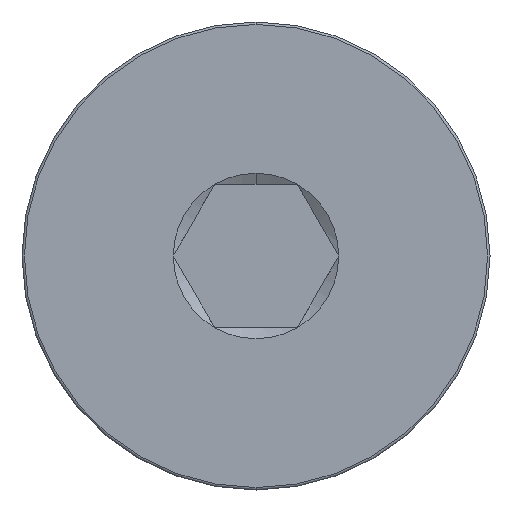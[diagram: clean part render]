
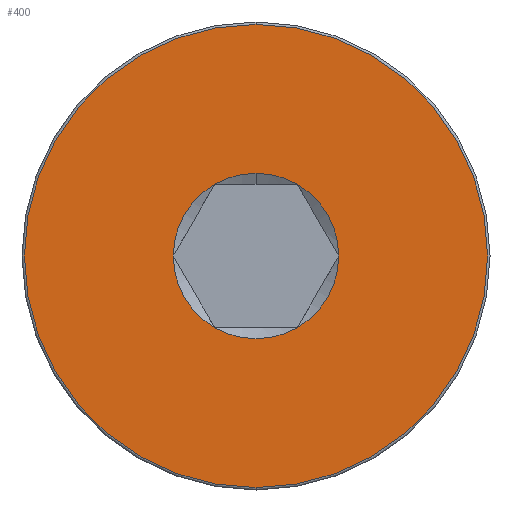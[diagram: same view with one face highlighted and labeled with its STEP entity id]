
A CAD part, left-side view. The second image highlights one B-rep face of the part: STEP entity #400.
In plain terms, the highlighted planar face has unit normal (-1, 0, 0).
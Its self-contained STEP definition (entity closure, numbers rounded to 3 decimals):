
#2 = CARTESIAN_POINT ( 'NONE',  ( 0., 0., 0. ) ) ;
#28 = DIRECTION ( 'NONE',  ( -1., 0., 0. ) ) ;
#31 = CARTESIAN_POINT ( 'NONE',  ( 0., 0.866, 1.5 ) ) ;
#59 = VERTEX_POINT ( 'NONE', #172 ) ;
#65 = EDGE_CURVE ( 'NONE', #428, #702, #761, .T. ) ;
#73 = CARTESIAN_POINT ( 'NONE',  ( 0., 0., 0. ) ) ;
#74 = AXIS2_PLACEMENT_3D ( 'NONE', #701, #657, #339 ) ;
#84 = VERTEX_POINT ( 'NONE', #531 ) ;
#85 = CIRCLE ( 'NONE', #189, 1.732 ) ;
#86 = DIRECTION ( 'NONE',  ( 1., 0., 0. ) ) ;
#90 = ORIENTED_EDGE ( 'NONE', *, *, #237, .T. ) ;
#94 = FACE_OUTER_BOUND ( 'NONE', #509, .T. ) ;
#96 = CIRCLE ( 'NONE', #717, 1.732 ) ;
#99 = CARTESIAN_POINT ( 'NONE',  ( 0., 1.732, 0. ) ) ;
#100 = EDGE_CURVE ( 'NONE', #231, #59, #526, .T. ) ;
#138 = CIRCLE ( 'NONE', #381, 1.732 ) ;
#139 = DIRECTION ( 'NONE',  ( 0., 0., 1. ) ) ;
#143 = DIRECTION ( 'NONE',  ( 0., 0., -1. ) ) ;
#156 = CARTESIAN_POINT ( 'NONE',  ( 0., 0., 0. ) ) ;
#169 = ORIENTED_EDGE ( 'NONE', *, *, #65, .T. ) ;
#172 = CARTESIAN_POINT ( 'NONE',  ( 0., -0.866, 1.5 ) ) ;
#177 = AXIS2_PLACEMENT_3D ( 'NONE', #587, #523, #483 ) ;
#178 = AXIS2_PLACEMENT_3D ( 'NONE', #156, #515, #218 ) ;
#189 = AXIS2_PLACEMENT_3D ( 'NONE', #2, #666, #288 ) ;
#202 = CIRCLE ( 'NONE', #401, 1.732 ) ;
#205 = ORIENTED_EDGE ( 'NONE', *, *, #378, .T. ) ;
#215 = AXIS2_PLACEMENT_3D ( 'NONE', #681, #86, #143 ) ;
#218 = DIRECTION ( 'NONE',  ( 0., 0., 1. ) ) ;
#231 = VERTEX_POINT ( 'NONE', #382 ) ;
#235 = ORIENTED_EDGE ( 'NONE', *, *, #260, .T. ) ;
#237 = EDGE_CURVE ( 'NONE', #59, #84, #202, .T. ) ;
#260 = EDGE_CURVE ( 'NONE', #750, #785, #138, .T. ) ;
#265 = DIRECTION ( 'NONE',  ( 1., 0., 0. ) ) ;
#274 = PLANE ( 'NONE',  #178 ) ;
#275 = ORIENTED_EDGE ( 'NONE', *, *, #100, .T. ) ;
#288 = DIRECTION ( 'NONE',  ( 0., 0., -1. ) ) ;
#293 = EDGE_CURVE ( 'NONE', #785, #231, #697, .T. ) ;
#333 = FACE_BOUND ( 'NONE', #443, .T. ) ;
#339 = DIRECTION ( 'NONE',  ( 0., 0., 1. ) ) ;
#378 = EDGE_CURVE ( 'NONE', #520, #638, #661, .T. ) ;
#381 = AXIS2_PLACEMENT_3D ( 'NONE', #441, #676, #751 ) ;
#382 = CARTESIAN_POINT ( 'NONE',  ( 0., 0., 1.732 ) ) ;
#385 = ORIENTED_EDGE ( 'NONE', *, *, #540, .T. ) ;
#400 = ADVANCED_FACE ( 'NONE', ( #94, #333 ), #274, .T. ) ;
#401 = AXIS2_PLACEMENT_3D ( 'NONE', #73, #265, #740 ) ;
#420 = DIRECTION ( 'NONE',  ( 1., 0., 0. ) ) ;
#428 = VERTEX_POINT ( 'NONE', #705 ) ;
#441 = CARTESIAN_POINT ( 'NONE',  ( 0., 0., 0. ) ) ;
#443 = EDGE_LOOP ( 'NONE', ( #235, #539, #275, #90, #385, #169, #455 ) ) ;
#455 = ORIENTED_EDGE ( 'NONE', *, *, #570, .T. ) ;
#472 = DIRECTION ( 'NONE',  ( 1., 0., 0. ) ) ;
#483 = DIRECTION ( 'NONE',  ( 0., 0., -1. ) ) ;
#506 = CIRCLE ( 'NONE', #656, 4.85 ) ;
#509 = EDGE_LOOP ( 'NONE', ( #685, #205 ) ) ;
#515 = DIRECTION ( 'NONE',  ( -1., 0., 0. ) ) ;
#519 = CARTESIAN_POINT ( 'NONE',  ( 0., 0., 0. ) ) ;
#520 = VERTEX_POINT ( 'NONE', #727 ) ;
#523 = DIRECTION ( 'NONE',  ( 1., 0., 0. ) ) ;
#526 = CIRCLE ( 'NONE', #683, 1.732 ) ;
#531 = CARTESIAN_POINT ( 'NONE',  ( 0., -1.732, 0. ) ) ;
#539 = ORIENTED_EDGE ( 'NONE', *, *, #293, .T. ) ;
#540 = EDGE_CURVE ( 'NONE', #84, #428, #85, .T. ) ;
#570 = EDGE_CURVE ( 'NONE', #702, #750, #96, .T. ) ;
#587 = CARTESIAN_POINT ( 'NONE',  ( 0., 0., 0. ) ) ;
#615 = CARTESIAN_POINT ( 'NONE',  ( 0., 0.866, -1.5 ) ) ;
#626 = CARTESIAN_POINT ( 'NONE',  ( 0., 0., 4.85 ) ) ;
#638 = VERTEX_POINT ( 'NONE', #626 ) ;
#656 = AXIS2_PLACEMENT_3D ( 'NONE', #682, #28, #139 ) ;
#657 = DIRECTION ( 'NONE',  ( -1., 0., 0. ) ) ;
#661 = CIRCLE ( 'NONE', #74, 4.85 ) ;
#664 = EDGE_CURVE ( 'NONE', #638, #520, #506, .T. ) ;
#666 = DIRECTION ( 'NONE',  ( 1., 0., 0. ) ) ;
#671 = DIRECTION ( 'NONE',  ( 0., 0., -1. ) ) ;
#676 = DIRECTION ( 'NONE',  ( 1., 0., 0. ) ) ;
#677 = CARTESIAN_POINT ( 'NONE',  ( 0., 0., 0. ) ) ;
#681 = CARTESIAN_POINT ( 'NONE',  ( 0., 0., 0. ) ) ;
#682 = CARTESIAN_POINT ( 'NONE',  ( 0., 0., 0. ) ) ;
#683 = AXIS2_PLACEMENT_3D ( 'NONE', #519, #472, #671 ) ;
#685 = ORIENTED_EDGE ( 'NONE', *, *, #664, .T. ) ;
#697 = CIRCLE ( 'NONE', #215, 1.732 ) ;
#701 = CARTESIAN_POINT ( 'NONE',  ( 0., 0., 0. ) ) ;
#702 = VERTEX_POINT ( 'NONE', #615 ) ;
#705 = CARTESIAN_POINT ( 'NONE',  ( 0., -0.866, -1.5 ) ) ;
#717 = AXIS2_PLACEMENT_3D ( 'NONE', #677, #420, #729 ) ;
#727 = CARTESIAN_POINT ( 'NONE',  ( 0., 0., -4.85 ) ) ;
#729 = DIRECTION ( 'NONE',  ( 0., 0., -1. ) ) ;
#740 = DIRECTION ( 'NONE',  ( 0., 0., -1. ) ) ;
#750 = VERTEX_POINT ( 'NONE', #99 ) ;
#751 = DIRECTION ( 'NONE',  ( 0., 0., -1. ) ) ;
#761 = CIRCLE ( 'NONE', #177, 1.732 ) ;
#785 = VERTEX_POINT ( 'NONE', #31 ) ;
